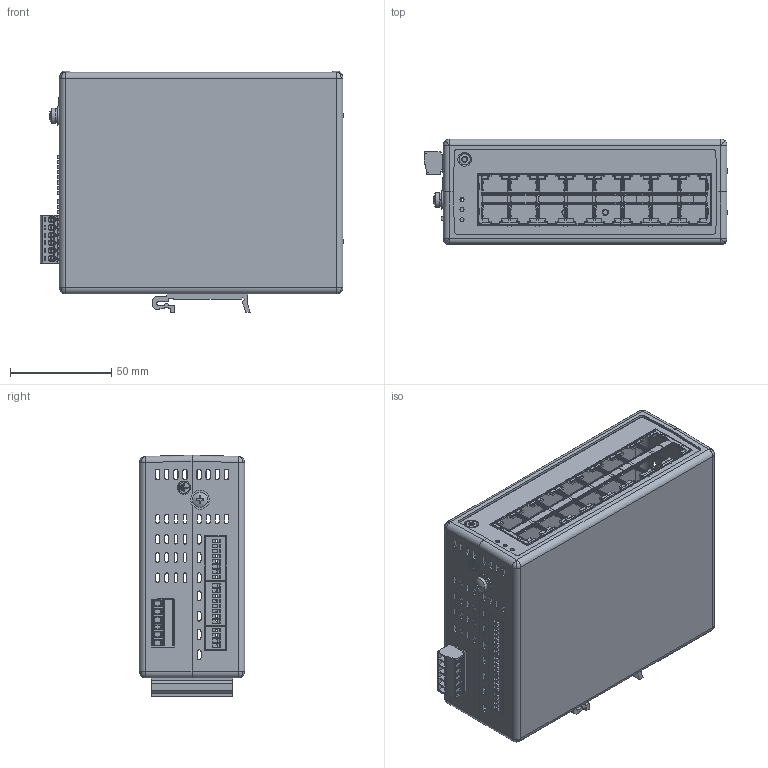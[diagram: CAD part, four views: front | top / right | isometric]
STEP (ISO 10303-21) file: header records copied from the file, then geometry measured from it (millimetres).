
FILE_DESCRIPTION(('TFLEX Exchange Step'),'2;1');
FILE_NAME('STK-EX-U-01-A16R000G.stp', '2025-01-30T12:17:03+03:00',('Yuriy Romanov'),('Unknown organisation'),'TFLEX Exchange 2023.2','T-FLEX CAD','Unknown authorisation');
FILE_SCHEMA( ('AUTOMOTIVE_DESIGN { 1 0 10303 214 1 1 1 1 }') );
Length unit declared in the file: millimetre
Products named in the file (1): STK-EX-U-01-A16R000G
Bounding box: 150 x 52 x 119.3 mm (x, y, z)
Volume: 66281.9 mm3; surface area: 120675.1 mm2
Topology: 57 solids, 57 shells, 3765 faces, 10557 edges, 6820 vertices
Faces by surface type: plane 2338, cylinder 867, cone 266, bspline 96, extrusion 94, torus 58, sphere 46
Full cylindrical faces by diameter (mm): 2 x3, 2.5 x4, 2.75 x6, 2.8 x6, 2.95 x12, 3 x4, 3.5 x4, 4 x1, 4.5 x1, 4.533 x1, 5.5 x8, 7.467 x1, 9.333 x1
Entity records: 134324 total; most frequent: CARTESIAN_POINT 36572, ORIENTED_EDGE 21014, DIRECTION 19229, EDGE_CURVE 10507, VECTOR 7593, LINE 7499, VERTEX_POINT 6820, AXIS2_PLACEMENT_3D 5818
